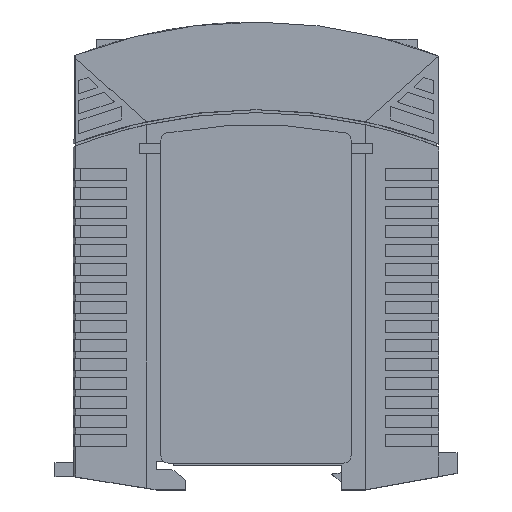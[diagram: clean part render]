
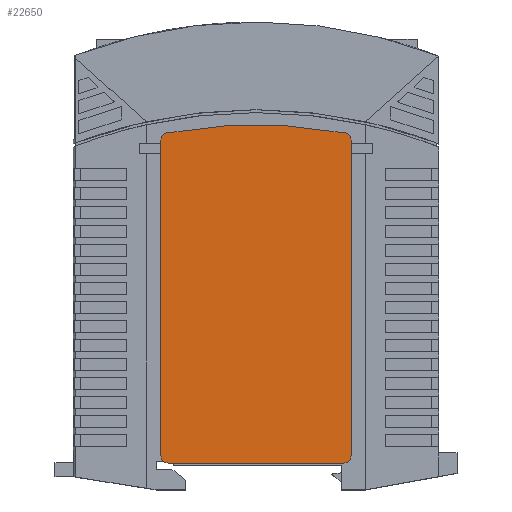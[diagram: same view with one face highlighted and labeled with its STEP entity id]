
A CAD part, top view. The second image highlights one B-rep face of the part: STEP entity #22650.
In plain terms, the highlighted planar face has unit normal (0, 0, 1).
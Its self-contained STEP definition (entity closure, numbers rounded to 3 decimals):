
#7733=CARTESIAN_POINT('',(-19.5,-24.244,0.25));
#7734=DIRECTION('',(0.,0.,1.));
#7735=DIRECTION('',(1.,0.,0.));
#7736=AXIS2_PLACEMENT_3D('',#7733,#7734,#7735);
#7738=DIRECTION('',(0.,1.,0.));
#7739=VECTOR('',#7738,64.756);
#7740=CARTESIAN_POINT('',(-18.,-89.,0.25));
#7741=LINE('',#7740,#7739);
#7742=CARTESIAN_POINT('',(-19.5,-89.,0.25));
#7743=DIRECTION('',(0.,0.,1.));
#7744=DIRECTION('',(0.,-1.,0.));
#7745=AXIS2_PLACEMENT_3D('',#7742,#7743,#7744);
#7747=DIRECTION('',(1.,0.,0.));
#7748=VECTOR('',#7747,36.);
#7749=CARTESIAN_POINT('',(-55.5,-90.5,0.25));
#7750=LINE('',#7749,#7748);
#7751=CARTESIAN_POINT('',(-55.5,-89.,0.25));
#7752=DIRECTION('',(0.,0.,1.));
#7753=DIRECTION('',(-1.,0.,0.));
#7754=AXIS2_PLACEMENT_3D('',#7751,#7752,#7753);
#7756=DIRECTION('',(0.,-1.,0.));
#7757=VECTOR('',#7756,64.756);
#7758=CARTESIAN_POINT('',(-57.,-24.244,0.25));
#7759=LINE('',#7758,#7757);
#7760=CARTESIAN_POINT('',(-55.5,-24.244,0.25));
#7761=DIRECTION('',(0.,0.,1.));
#7762=DIRECTION('',(-0.181,0.983,0.));
#7763=AXIS2_PLACEMENT_3D('',#7760,#7761,#7762);
#7765=CARTESIAN_POINT('',(-37.5,-121.946,0.25));
#7766=DIRECTION('',(0.,0.,1.));
#7767=DIRECTION('',(0.181,0.983,0.));
#7768=AXIS2_PLACEMENT_3D('',#7765,#7766,#7767);
#10652=CARTESIAN_POINT('',(-18.,-24.244,0.25));
#10654=VERTEX_POINT('',#10652);
#10656=CARTESIAN_POINT('',(-19.228,-22.769,0.25));
#10657=VERTEX_POINT('',#10656);
#10660=CARTESIAN_POINT('',(-55.772,-22.769,0.25));
#10662=VERTEX_POINT('',#10660);
#10664=CARTESIAN_POINT('',(-57.,-24.244,0.25));
#10665=VERTEX_POINT('',#10664);
#10672=CARTESIAN_POINT('',(-57.,-89.,0.25));
#10674=VERTEX_POINT('',#10672);
#10676=CARTESIAN_POINT('',(-55.5,-90.5,0.25));
#10677=VERTEX_POINT('',#10676);
#10678=CARTESIAN_POINT('',(-19.5,-90.5,0.25));
#10680=VERTEX_POINT('',#10678);
#10682=CARTESIAN_POINT('',(-18.,-89.,0.25));
#10683=VERTEX_POINT('',#10682);
#22635=CARTESIAN_POINT('',(0.,0.,0.25));
#22636=DIRECTION('',(0.,0.,1.));
#22637=DIRECTION('',(1.,0.,0.));
#22638=AXIS2_PLACEMENT_3D('',#22635,#22636,#22637);
#22639=PLANE('',#22638);
#22640=ORIENTED_EDGE('',*,*,#21037,.F.);
#22641=ORIENTED_EDGE('',*,*,#21054,.F.);
#22642=ORIENTED_EDGE('',*,*,#22614,.F.);
#22643=ORIENTED_EDGE('',*,*,#22627,.F.);
#22644=ORIENTED_EDGE('',*,*,#12835,.F.);
#22645=ORIENTED_EDGE('',*,*,#12852,.F.);
#22646=ORIENTED_EDGE('',*,*,#21009,.F.);
#22647=ORIENTED_EDGE('',*,*,#21023,.F.);
#22648=EDGE_LOOP('',(#22640,#22641,#22642,#22643,#22644,#22645,#22646,#22647));
#22649=FACE_OUTER_BOUND('',#22648,.F.);
#22650=ADVANCED_FACE('',(#22649),#22639,.T.);
#7737=CIRCLE('',#7736,1.5);
#7746=CIRCLE('',#7745,1.5);
#7755=CIRCLE('',#7754,1.5);
#7764=CIRCLE('',#7763,1.5);
#7769=CIRCLE('',#7768,100.846);
#12835=EDGE_CURVE('',#10674,#10677,#7755,.T.);
#12852=EDGE_CURVE('',#10665,#10674,#7759,.T.);
#21009=EDGE_CURVE('',#10662,#10665,#7764,.T.);
#21023=EDGE_CURVE('',#10657,#10662,#7769,.T.);
#21037=EDGE_CURVE('',#10654,#10657,#7737,.T.);
#21054=EDGE_CURVE('',#10683,#10654,#7741,.T.);
#22614=EDGE_CURVE('',#10680,#10683,#7746,.T.);
#22627=EDGE_CURVE('',#10677,#10680,#7750,.T.);
